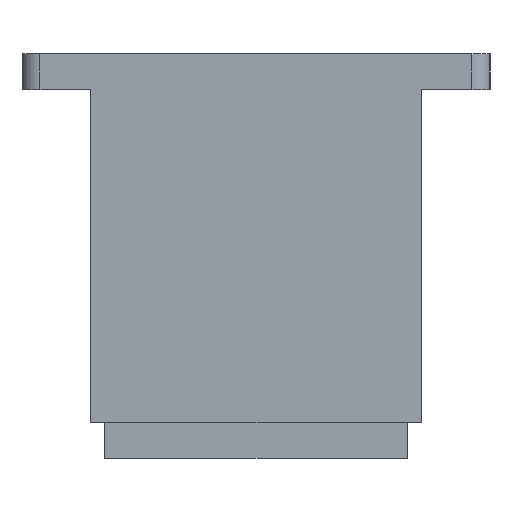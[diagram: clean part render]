
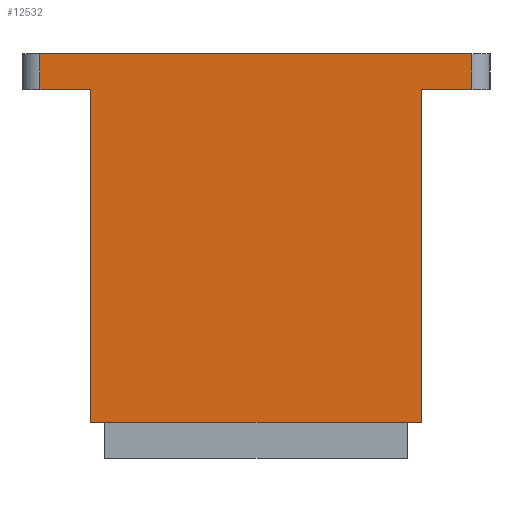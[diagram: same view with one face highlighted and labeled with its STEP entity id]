
A CAD part, left-side view. The second image highlights one B-rep face of the part: STEP entity #12532.
In plain terms, the highlighted planar face has unit normal (-1, 0, 0).
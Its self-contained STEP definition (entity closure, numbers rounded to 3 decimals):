
#394=PLANE('',#13228);
#779=LINE('',#17772,#1685);
#780=LINE('',#17774,#1686);
#781=LINE('',#17776,#1687);
#782=LINE('',#17778,#1688);
#783=LINE('',#17780,#1689);
#784=LINE('',#17782,#1690);
#785=LINE('',#17784,#1691);
#786=LINE('',#17786,#1692);
#787=LINE('',#17788,#1693);
#788=LINE('',#17790,#1694);
#1685=VECTOR('',#14444,1000.);
#1686=VECTOR('',#14447,1000.);
#1687=VECTOR('',#14448,1000.);
#1688=VECTOR('',#14449,1000.);
#1689=VECTOR('',#14450,1000.);
#1690=VECTOR('',#14451,1000.);
#1691=VECTOR('',#14452,1000.);
#1692=VECTOR('',#14453,1000.);
#1693=VECTOR('',#14454,1000.);
#1694=VECTOR('',#14455,1000.);
#2594=ORIENTED_EDGE('',*,*,#5581,.F.);
#2595=ORIENTED_EDGE('',*,*,#5582,.F.);
#2596=ORIENTED_EDGE('',*,*,#5583,.F.);
#2597=ORIENTED_EDGE('',*,*,#5584,.F.);
#2598=ORIENTED_EDGE('',*,*,#5585,.F.);
#2599=ORIENTED_EDGE('',*,*,#5586,.F.);
#2600=ORIENTED_EDGE('',*,*,#5587,.T.);
#2601=ORIENTED_EDGE('',*,*,#5588,.F.);
#2602=ORIENTED_EDGE('',*,*,#5589,.F.);
#2603=ORIENTED_EDGE('',*,*,#5590,.T.);
#5581=EDGE_CURVE('',#7075,#7072,#779,.T.);
#5582=EDGE_CURVE('',#7076,#7075,#780,.T.);
#5583=EDGE_CURVE('',#7077,#7076,#781,.T.);
#5584=EDGE_CURVE('',#7078,#7077,#782,.T.);
#5585=EDGE_CURVE('',#7079,#7078,#783,.T.);
#5586=EDGE_CURVE('',#7080,#7079,#784,.T.);
#5587=EDGE_CURVE('',#7080,#7081,#785,.T.);
#5588=EDGE_CURVE('',#7082,#7081,#786,.T.);
#5589=EDGE_CURVE('',#7083,#7082,#787,.T.);
#5590=EDGE_CURVE('',#7083,#7072,#788,.T.);
#7072=VERTEX_POINT('',#17766);
#7075=VERTEX_POINT('',#17771);
#7076=VERTEX_POINT('',#17775);
#7077=VERTEX_POINT('',#17777);
#7078=VERTEX_POINT('',#17779);
#7079=VERTEX_POINT('',#17781);
#7080=VERTEX_POINT('',#17783);
#7081=VERTEX_POINT('',#17785);
#7082=VERTEX_POINT('',#17787);
#7083=VERTEX_POINT('',#17789);
#8647=EDGE_LOOP('',(#2594,#2595,#2596,#2597,#2598,#2599,#2600,#2601,#2602,
#2603));
#9575=FACE_BOUND('',#8647,.T.);
#12532=ADVANCED_FACE('',(#9575),#394,.T.);
#13228=AXIS2_PLACEMENT_3D('',#17773,#14445,#14446);
#14444=DIRECTION('',(0.,0.,1.));
#14445=DIRECTION('',(-1.,0.,0.));
#14446=DIRECTION('',(0.,0.,1.));
#14447=DIRECTION('',(0.,1.,0.));
#14448=DIRECTION('',(0.,0.,1.));
#14449=DIRECTION('',(0.,1.,0.));
#14450=DIRECTION('',(0.,1.,0.));
#14451=DIRECTION('',(0.,1.,0.));
#14452=DIRECTION('',(0.,0.,1.));
#14453=DIRECTION('',(0.,1.,0.));
#14454=DIRECTION('',(0.,0.,-1.));
#14455=DIRECTION('',(0.,1.,0.));
#17766=CARTESIAN_POINT('',(-120.281,92.551,112.5));
#17771=CARTESIAN_POINT('',(-120.281,92.551,102.5));
#17772=CARTESIAN_POINT('',(-120.281,92.551,56.25));
#17773=CARTESIAN_POINT('',(-120.281,-13.449,10.));
#17774=CARTESIAN_POINT('',(-120.281,-32.449,102.5));
#17775=CARTESIAN_POINT('',(-120.281,78.551,102.5));
#17776=CARTESIAN_POINT('',(-120.281,78.551,10.));
#17777=CARTESIAN_POINT('',(-120.281,78.551,10.));
#17778=CARTESIAN_POINT('',(-120.281,-13.449,10.));
#17779=CARTESIAN_POINT('',(-120.281,74.551,10.));
#17780=CARTESIAN_POINT('',(-120.281,9.551,10.));
#17781=CARTESIAN_POINT('',(-120.281,-9.449,10.));
#17782=CARTESIAN_POINT('',(-120.281,-13.449,10.));
#17783=CARTESIAN_POINT('',(-120.281,-13.449,10.));
#17784=CARTESIAN_POINT('',(-120.281,-13.449,10.));
#17785=CARTESIAN_POINT('',(-120.281,-13.449,102.5));
#17786=CARTESIAN_POINT('',(-120.281,-32.449,102.5));
#17787=CARTESIAN_POINT('',(-120.281,-27.449,102.5));
#17788=CARTESIAN_POINT('',(-120.281,-27.449,56.25));
#17789=CARTESIAN_POINT('',(-120.281,-27.449,112.5));
#17790=CARTESIAN_POINT('',(-120.281,-32.449,112.5));
